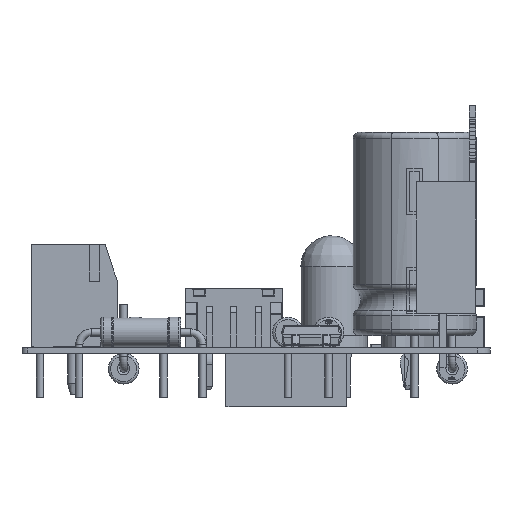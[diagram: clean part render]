
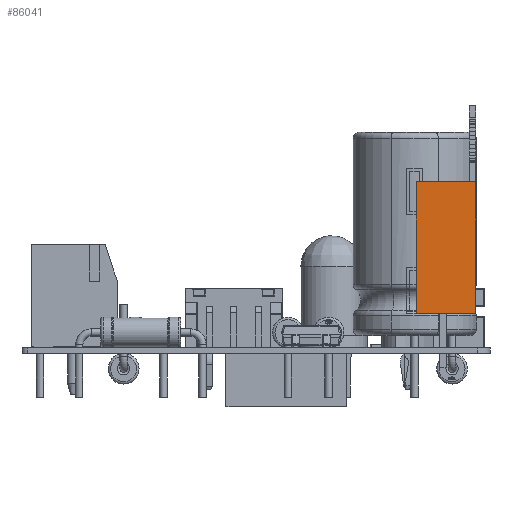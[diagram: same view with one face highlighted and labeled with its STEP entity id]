
A CAD part, front view. The second image highlights one B-rep face of the part: STEP entity #86041.
In plain terms, the highlighted planar face has unit normal (0, -1, 0).
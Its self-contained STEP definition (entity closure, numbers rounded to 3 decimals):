
#86016 = VERTEX_POINT('',#86017);
#86017 = CARTESIAN_POINT('',(32.003,6.28,
    13.48));
#86023 = EDGE_CURVE('',#86024,#86016,#86026,.T.);
#86024 = VERTEX_POINT('',#86025);
#86025 = CARTESIAN_POINT('',(32.003,6.28,
    2.8));
#86026 = LINE('',#86027,#86028);
#86027 = CARTESIAN_POINT('',(32.003,6.28,
    2.8));
#86028 = VECTOR('',#86029,1.);
#86029 = DIRECTION('',(0.,0.,1.));
#86041 = ADVANCED_FACE('',(#86042),#86067,.F.);
#86042 = FACE_BOUND('',#86043,.F.);
#86043 = EDGE_LOOP('',(#86044,#86045,#86053,#86061));
#86044 = ORIENTED_EDGE('',*,*,#86023,.T.);
#86045 = ORIENTED_EDGE('',*,*,#86046,.T.);
#86046 = EDGE_CURVE('',#86016,#86047,#86049,.T.);
#86047 = VERTEX_POINT('',#86048);
#86048 = CARTESIAN_POINT('',(36.853,6.28,
    13.48));
#86049 = LINE('',#86050,#86051);
#86050 = CARTESIAN_POINT('',(32.003,6.28,
    13.48));
#86051 = VECTOR('',#86052,1.);
#86052 = DIRECTION('',(1.,0.,0.));
#86053 = ORIENTED_EDGE('',*,*,#86054,.F.);
#86054 = EDGE_CURVE('',#86055,#86047,#86057,.T.);
#86055 = VERTEX_POINT('',#86056);
#86056 = CARTESIAN_POINT('',(36.853,6.28,
    2.8));
#86057 = LINE('',#86058,#86059);
#86058 = CARTESIAN_POINT('',(36.853,6.28,
    2.8));
#86059 = VECTOR('',#86060,1.);
#86060 = DIRECTION('',(0.,0.,1.));
#86061 = ORIENTED_EDGE('',*,*,#86062,.F.);
#86062 = EDGE_CURVE('',#86024,#86055,#86063,.T.);
#86063 = LINE('',#86064,#86065);
#86064 = CARTESIAN_POINT('',(32.003,6.28,
    2.8));
#86065 = VECTOR('',#86066,1.);
#86066 = DIRECTION('',(1.,0.,0.));
#86067 = PLANE('',#86068);
#86068 = AXIS2_PLACEMENT_3D('',#86069,#86070,#86071);
#86069 = CARTESIAN_POINT('',(32.003,6.28,
    2.8));
#86070 = DIRECTION('',(0.,1.,0.));
#86071 = DIRECTION('',(1.,0.,0.));
